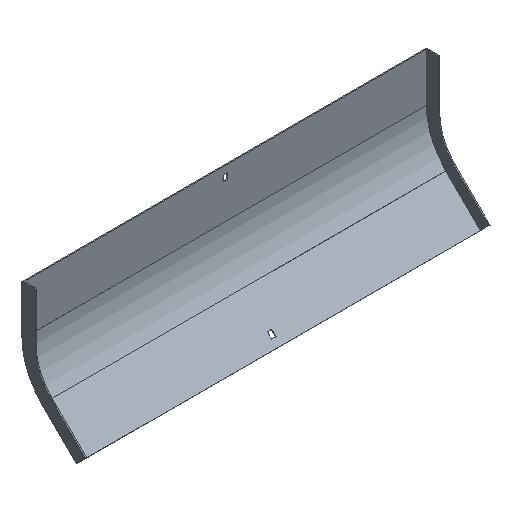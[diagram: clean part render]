
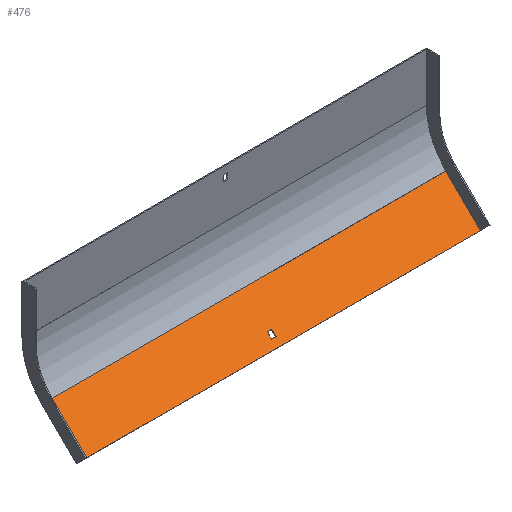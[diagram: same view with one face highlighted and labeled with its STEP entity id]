
A CAD part, isometric view. The second image highlights one B-rep face of the part: STEP entity #476.
In plain terms, the highlighted planar face has unit normal (0, -0.707, 0.707).
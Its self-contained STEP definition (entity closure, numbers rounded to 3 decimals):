
#1 = VERTEX_POINT ( 'NONE', #428 ) ;
#8 = CARTESIAN_POINT ( 'NONE',  ( 303.5, -74.701, -187.722 ) ) ;
#43 = DIRECTION ( 'NONE',  ( 0., 0.707, 0.707 ) ) ;
#60 = CARTESIAN_POINT ( 'NONE',  ( -3.25, -74.701, -187.722 ) ) ;
#77 = CARTESIAN_POINT ( 'NONE',  ( -302., -82.479, -195.5 ) ) ;
#80 = VECTOR ( 'NONE', #198, 1000. ) ;
#95 = ORIENTED_EDGE ( 'NONE', *, *, #240, .T. ) ;
#99 = ORIENTED_EDGE ( 'NONE', *, *, #577, .T. ) ;
#104 = AXIS2_PLACEMENT_3D ( 'NONE', #845, #780, #191 ) ;
#114 = LINE ( 'NONE', #309, #209 ) ;
#120 = LINE ( 'NONE', #387, #272 ) ;
#122 = CARTESIAN_POINT ( 'NONE',  ( 3.25, -74.701, -187.722 ) ) ;
#146 = EDGE_CURVE ( 'NONE', #238, #271, #120, .T. ) ;
#160 = EDGE_CURVE ( 'NONE', #643, #491, #350, .T. ) ;
#191 = DIRECTION ( 'NONE',  ( 0., -0.707, -0.707 ) ) ;
#198 = DIRECTION ( 'NONE',  ( -1., 0., 0. ) ) ;
#209 = VECTOR ( 'NONE', #43, 1000. ) ;
#220 = ORIENTED_EDGE ( 'NONE', *, *, #446, .T. ) ;
#238 = VERTEX_POINT ( 'NONE', #77 ) ;
#240 = EDGE_CURVE ( 'NONE', #525, #286, #609, .T. ) ;
#253 = CARTESIAN_POINT ( 'NONE',  ( 302., -30.789, -143.811 ) ) ;
#256 = ORIENTED_EDGE ( 'NONE', *, *, #480, .F. ) ;
#271 = VERTEX_POINT ( 'NONE', #503 ) ;
#272 = VECTOR ( 'NONE', #651, 1000. ) ;
#285 = DIRECTION ( 'NONE',  ( -1., 0., 0. ) ) ;
#286 = VERTEX_POINT ( 'NONE', #763 ) ;
#309 = CARTESIAN_POINT ( 'NONE',  ( 302., -30.789, -143.811 ) ) ;
#322 = LINE ( 'NONE', #663, #80 ) ;
#341 = CARTESIAN_POINT ( 'NONE',  ( 303.5, -82.479, -195.5 ) ) ;
#350 = LINE ( 'NONE', #8, #440 ) ;
#353 = ORIENTED_EDGE ( 'NONE', *, *, #160, .T. ) ;
#357 = CARTESIAN_POINT ( 'NONE',  ( 303.5, -68.337, -181.358 ) ) ;
#363 = VERTEX_POINT ( 'NONE', #253 ) ;
#387 = CARTESIAN_POINT ( 'NONE',  ( -302., -30.789, -143.811 ) ) ;
#428 = CARTESIAN_POINT ( 'NONE',  ( 302., -82.479, -195.5 ) ) ;
#432 = VECTOR ( 'NONE', #518, 1000. ) ;
#437 = EDGE_LOOP ( 'NONE', ( #353, #543, #95, #99 ) ) ;
#440 = VECTOR ( 'NONE', #285, 1000. ) ;
#446 = EDGE_CURVE ( 'NONE', #363, #271, #322, .T. ) ;
#464 = LINE ( 'NONE', #341, #697 ) ;
#476 = ADVANCED_FACE ( 'NONE', ( #521, #655 ), #593, .T. ) ;
#480 = EDGE_CURVE ( 'NONE', #1, #238, #464, .T. ) ;
#491 = VERTEX_POINT ( 'NONE', #60 ) ;
#503 = CARTESIAN_POINT ( 'NONE',  ( -302., -30.789, -143.811 ) ) ;
#518 = DIRECTION ( 'NONE',  ( 0., -0.707, -0.707 ) ) ;
#521 = FACE_OUTER_BOUND ( 'NONE', #628, .T. ) ;
#525 = VERTEX_POINT ( 'NONE', #633 ) ;
#543 = ORIENTED_EDGE ( 'NONE', *, *, #832, .T. ) ;
#559 = LINE ( 'NONE', #741, #432 ) ;
#577 = EDGE_CURVE ( 'NONE', #286, #643, #559, .T. ) ;
#593 = PLANE ( 'NONE',  #104 ) ;
#599 = LINE ( 'NONE', #771, #844 ) ;
#609 = LINE ( 'NONE', #357, #634 ) ;
#628 = EDGE_LOOP ( 'NONE', ( #858, #256, #798, #220 ) ) ;
#633 = CARTESIAN_POINT ( 'NONE',  ( -3.25, -68.337, -181.358 ) ) ;
#634 = VECTOR ( 'NONE', #689, 1000. ) ;
#643 = VERTEX_POINT ( 'NONE', #122 ) ;
#651 = DIRECTION ( 'NONE',  ( 0., 0.707, 0.707 ) ) ;
#655 = FACE_BOUND ( 'NONE', #437, .T. ) ;
#663 = CARTESIAN_POINT ( 'NONE',  ( 303.5, -30.789, -143.811 ) ) ;
#689 = DIRECTION ( 'NONE',  ( 1., 0., 0. ) ) ;
#697 = VECTOR ( 'NONE', #860, 1000. ) ;
#723 = EDGE_CURVE ( 'NONE', #1, #363, #114, .T. ) ;
#731 = DIRECTION ( 'NONE',  ( 0., 0.707, 0.707 ) ) ;
#741 = CARTESIAN_POINT ( 'NONE',  ( 3.25, -30.789, -143.811 ) ) ;
#763 = CARTESIAN_POINT ( 'NONE',  ( 3.25, -68.337, -181.358 ) ) ;
#771 = CARTESIAN_POINT ( 'NONE',  ( -3.25, -30.789, -143.811 ) ) ;
#780 = DIRECTION ( 'NONE',  ( 0., -0.707, 0.707 ) ) ;
#798 = ORIENTED_EDGE ( 'NONE', *, *, #723, .T. ) ;
#832 = EDGE_CURVE ( 'NONE', #491, #525, #599, .T. ) ;
#844 = VECTOR ( 'NONE', #731, 1000. ) ;
#845 = CARTESIAN_POINT ( 'NONE',  ( 303.5, -30.789, -143.811 ) ) ;
#858 = ORIENTED_EDGE ( 'NONE', *, *, #146, .F. ) ;
#860 = DIRECTION ( 'NONE',  ( -1., 0., 0. ) ) ;
